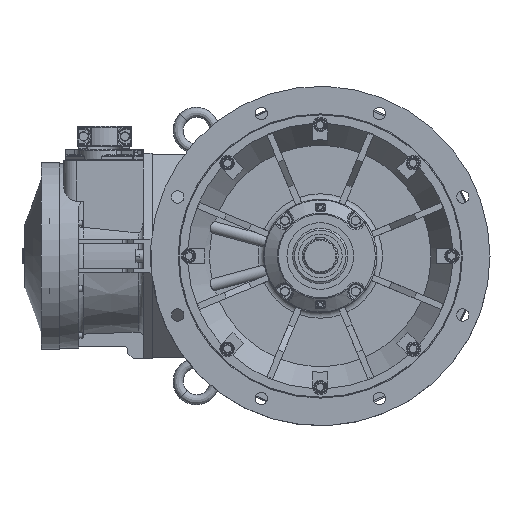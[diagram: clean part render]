
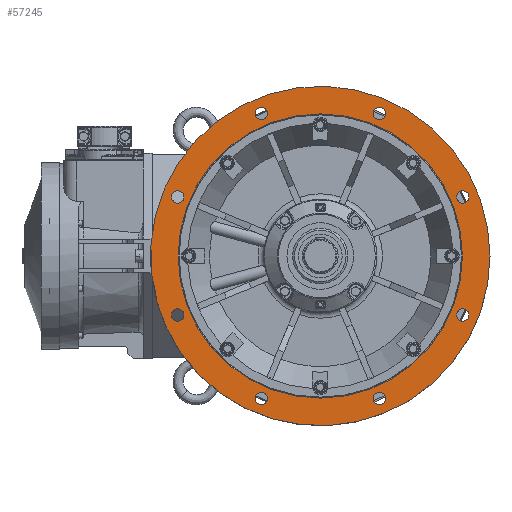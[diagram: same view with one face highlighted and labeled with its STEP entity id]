
A CAD part, left-side view. The second image highlights one B-rep face of the part: STEP entity #57245.
In plain terms, the highlighted planar face has unit normal (-1, 0, 0).
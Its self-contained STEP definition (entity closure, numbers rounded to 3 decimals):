
#3967=CIRCLE('',#61096,12.);
#3969=CIRCLE('',#61099,12.);
#3971=CIRCLE('',#61102,12.);
#3973=CIRCLE('',#61105,12.);
#3975=CIRCLE('',#61108,12.);
#3977=CIRCLE('',#61111,12.);
#3979=CIRCLE('',#61114,12.);
#3981=CIRCLE('',#61117,12.);
#4072=CIRCLE('',#61316,276.402);
#4073=CIRCLE('',#61317,330.);
#14419=ORIENTED_EDGE('',*,*,#20760,.F.);
#14420=ORIENTED_EDGE('',*,*,#20762,.F.);
#14421=ORIENTED_EDGE('',*,*,#20764,.F.);
#14422=ORIENTED_EDGE('',*,*,#20766,.F.);
#14423=ORIENTED_EDGE('',*,*,#20768,.F.);
#14424=ORIENTED_EDGE('',*,*,#20770,.F.);
#14425=ORIENTED_EDGE('',*,*,#20772,.F.);
#14426=ORIENTED_EDGE('',*,*,#20774,.F.);
#14427=ORIENTED_EDGE('',*,*,#21057,.F.);
#14428=ORIENTED_EDGE('',*,*,#21058,.T.);
#20760=EDGE_CURVE('',#24901,#24901,#3967,.T.);
#20762=EDGE_CURVE('',#24903,#24903,#3969,.T.);
#20764=EDGE_CURVE('',#24905,#24905,#3971,.T.);
#20766=EDGE_CURVE('',#24907,#24907,#3973,.T.);
#20768=EDGE_CURVE('',#24909,#24909,#3975,.T.);
#20770=EDGE_CURVE('',#24911,#24911,#3977,.T.);
#20772=EDGE_CURVE('',#24913,#24913,#3979,.T.);
#20774=EDGE_CURVE('',#24915,#24915,#3981,.T.);
#21057=EDGE_CURVE('',#25103,#25103,#4072,.T.);
#21058=EDGE_CURVE('',#25104,#25104,#4073,.F.);
#24901=VERTEX_POINT('',#92804);
#24903=VERTEX_POINT('',#92809);
#24905=VERTEX_POINT('',#92814);
#24907=VERTEX_POINT('',#92819);
#24909=VERTEX_POINT('',#92824);
#24911=VERTEX_POINT('',#92829);
#24913=VERTEX_POINT('',#92834);
#24915=VERTEX_POINT('',#92839);
#25103=VERTEX_POINT('',#93652);
#25104=VERTEX_POINT('',#93654);
#33299=EDGE_LOOP('',(#14419));
#33300=EDGE_LOOP('',(#14420));
#33301=EDGE_LOOP('',(#14421));
#33302=EDGE_LOOP('',(#14422));
#33303=EDGE_LOOP('',(#14423));
#33304=EDGE_LOOP('',(#14424));
#33305=EDGE_LOOP('',(#14425));
#33306=EDGE_LOOP('',(#14426));
#33307=EDGE_LOOP('',(#14427));
#33308=EDGE_LOOP('',(#14428));
#36276=FACE_BOUND('',#33299,.T.);
#36277=FACE_BOUND('',#33300,.T.);
#36278=FACE_BOUND('',#33301,.T.);
#36279=FACE_BOUND('',#33302,.T.);
#36280=FACE_BOUND('',#33303,.T.);
#36281=FACE_BOUND('',#33304,.T.);
#36282=FACE_BOUND('',#33305,.T.);
#36283=FACE_BOUND('',#33306,.T.);
#36284=FACE_BOUND('',#33307,.T.);
#36285=FACE_BOUND('',#33308,.T.);
#37972=PLANE('',#61315);
#57245=ADVANCED_FACE('',(#36276,#36277,#36278,#36279,#36280,#36281,#36282,
#36283,#36284,#36285),#37972,.F.);
#61096=AXIS2_PLACEMENT_3D('',#92803,#71236,#71237);
#61099=AXIS2_PLACEMENT_3D('',#92808,#71242,#71243);
#61102=AXIS2_PLACEMENT_3D('',#92813,#71248,#71249);
#61105=AXIS2_PLACEMENT_3D('',#92818,#71254,#71255);
#61108=AXIS2_PLACEMENT_3D('',#92823,#71260,#71261);
#61111=AXIS2_PLACEMENT_3D('',#92828,#71266,#71267);
#61114=AXIS2_PLACEMENT_3D('',#92833,#71272,#71273);
#61117=AXIS2_PLACEMENT_3D('',#92838,#71278,#71279);
#61315=AXIS2_PLACEMENT_3D('',#93650,#71800,#71801);
#61316=AXIS2_PLACEMENT_3D('',#93651,#71802,#71803);
#61317=AXIS2_PLACEMENT_3D('',#93653,#71804,#71805);
#71236=DIRECTION('',(-1.,0.,0.));
#71237=DIRECTION('',(0.,0.,1.));
#71242=DIRECTION('',(-1.,0.,0.));
#71243=DIRECTION('',(0.,0.,1.));
#71248=DIRECTION('',(-1.,0.,0.));
#71249=DIRECTION('',(0.,0.,1.));
#71254=DIRECTION('',(-1.,0.,0.));
#71255=DIRECTION('',(0.,0.,1.));
#71260=DIRECTION('',(-1.,0.,0.));
#71261=DIRECTION('',(0.,0.,1.));
#71266=DIRECTION('',(-1.,0.,0.));
#71267=DIRECTION('',(0.,0.,1.));
#71272=DIRECTION('',(-1.,0.,0.));
#71273=DIRECTION('',(0.,0.,1.));
#71278=DIRECTION('',(-1.,0.,0.));
#71279=DIRECTION('',(0.,0.,1.));
#71800=DIRECTION('',(1.,0.,0.));
#71801=DIRECTION('',(0.,-1.,0.));
#71802=DIRECTION('',(-1.,0.,0.));
#71803=DIRECTION('',(0.,1.,0.));
#71804=DIRECTION('',(1.,0.,0.));
#71805=DIRECTION('',(0.,-1.,0.));
#92803=CARTESIAN_POINT('',(-89.5,114.805,277.164));
#92804=CARTESIAN_POINT('',(-89.5,114.805,289.164));
#92808=CARTESIAN_POINT('',(-89.5,-114.805,277.164));
#92809=CARTESIAN_POINT('',(-89.5,-114.805,289.164));
#92813=CARTESIAN_POINT('',(-89.5,-277.164,114.805));
#92814=CARTESIAN_POINT('',(-89.5,-277.164,126.805));
#92818=CARTESIAN_POINT('',(-89.5,-277.164,-114.805));
#92819=CARTESIAN_POINT('',(-89.5,-277.164,-102.805));
#92823=CARTESIAN_POINT('',(-89.5,-114.805,-277.164));
#92824=CARTESIAN_POINT('',(-89.5,-114.805,-265.164));
#92828=CARTESIAN_POINT('',(-89.5,114.805,-277.164));
#92829=CARTESIAN_POINT('',(-89.5,114.805,-265.164));
#92833=CARTESIAN_POINT('',(-89.5,277.164,-114.805));
#92834=CARTESIAN_POINT('',(-89.5,277.164,-102.805));
#92838=CARTESIAN_POINT('',(-89.5,277.164,114.805));
#92839=CARTESIAN_POINT('',(-89.5,277.164,126.805));
#93650=CARTESIAN_POINT('',(-89.5,276.402,0.));
#93651=CARTESIAN_POINT('',(-89.5,0.,0.));
#93652=CARTESIAN_POINT('',(-89.5,276.402,0.));
#93653=CARTESIAN_POINT('',(-89.5,0.,0.));
#93654=CARTESIAN_POINT('',(-89.5,-330.,0.));
